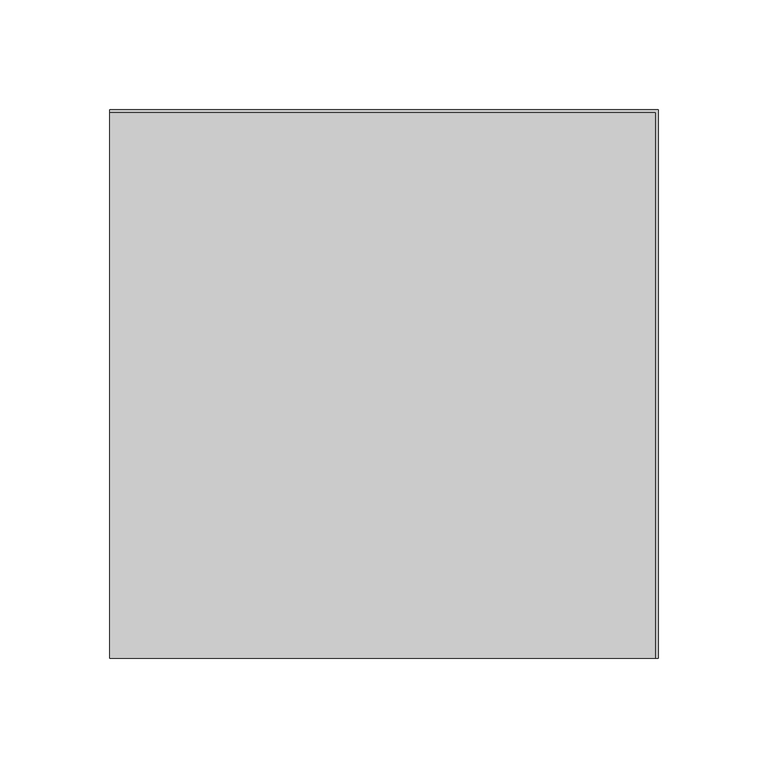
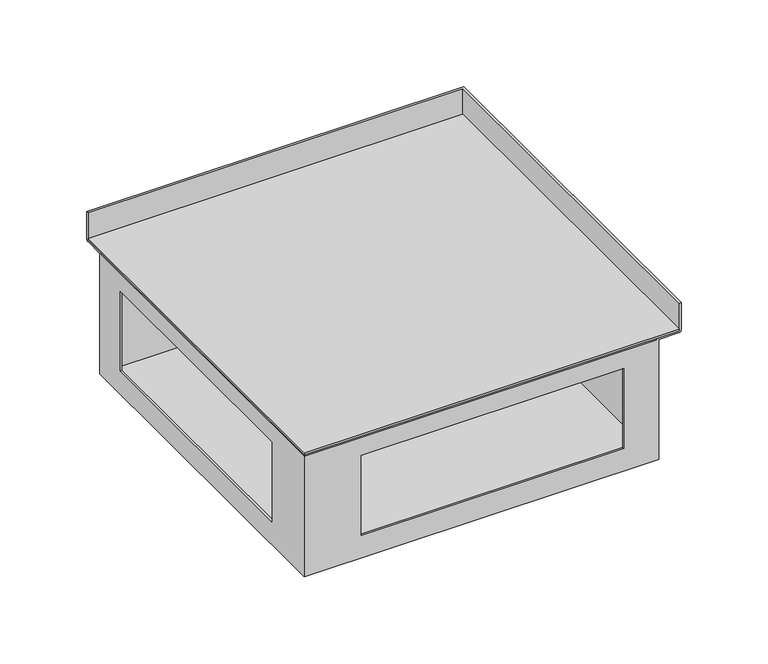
"""IFC4 building model written with IfcOpenShell, lengths in millimetres: proxy geometry, TECHNO_Угловой элемент_KVU : 250_105_90°."""

import ifcopenshell
import ifcopenshell.guid

model = None  # the IFC model being written
_history = None  # IfcOwnerHistory: only IFC2X3 demands one
_inside = {}  # id of a spatial element -> (the spatial element, [elements in it])
_under = {}  # id of a project, library or spatial element -> (it, [spatial elements below it])
_declared = {}  # id of a project -> (the project, [libraries it declares])
_typed = {}  # id of a type object -> (the type object, [elements of that type])
_made_of = {}  # id of a material, layer set ... -> (it, [elements and type objects made of it])


def new_model(schema):
    """Start an empty IFC model of exactly this schema.

    Asked for "IFC4X3", IfcOpenShell would pick the latest addendum, in which some entities
    have other attributes; the version numbers below select the first issue.
    IFC2X3 requires an IfcOwnerHistory on every rooted entity: one is made here for all.
    """
    global model, _history
    if schema == "IFC4X3":
        model = ifcopenshell.file(schema_version=(4, 3, 0, 0))
    else:
        model = ifcopenshell.file(schema=schema)
    _inside.clear()
    _under.clear()
    _declared.clear()
    _typed.clear()
    _made_of.clear()
    _history = None
    if model.schema == "IFC2X3":
        org = make("IfcOrganization", Name="unknown")
        user = make(
            "IfcPersonAndOrganization",
            ThePerson=make("IfcPerson", FamilyName="unknown"),
            TheOrganization=org,
        )
        app = make(
            "IfcApplication",
            ApplicationDeveloper=org,
            Version="unknown",
            ApplicationFullName="unknown",
            ApplicationIdentifier="unknown",
        )
        _history = make(
            "IfcOwnerHistory",
            OwningUser=user,
            OwningApplication=app,
            ChangeAction="ADDED",
            CreationDate=0,
        )
    return model


def make(cls, **values):
    """One entity of the class cls with the attributes given. An attribute that is None is left unset."""
    return model.create_entity(
        cls, **{name: value for name, value in values.items() if value is not None}
    )


def rooted(cls, **values):
    """An entity with a GlobalId (a new one), such as an element, a storey or a relation."""
    return make(cls, GlobalId=ifcopenshell.guid.new(), OwnerHistory=_history, **values)


def si_unit(unit_type, name, prefix=None):
    """IfcSIUnit, for example si_unit("LENGTHUNIT", "METRE", prefix="MILLI")."""
    return make("IfcSIUnit", UnitType=unit_type, Prefix=prefix, Name=name)


def assignment(units):
    """IfcUnitAssignment: the units of a project."""
    return None if units is None else make("IfcUnitAssignment", Units=units)


def point(xyz):
    """IfcCartesianPoint."""
    return None if xyz is None else make("IfcCartesianPoint", Coordinates=xyz)


def direction(xyz):
    """IfcDirection."""
    return None if xyz is None else make("IfcDirection", DirectionRatios=xyz)


def frame(location, z_axis=None, x_axis=None):
    """IfcAxis2Placement3D, a coordinate frame: its origin and axes. An axis left out is left unset."""
    return make(
        "IfcAxis2Placement3D",
        Location=point(location),
        Axis=direction(z_axis),
        RefDirection=direction(x_axis),
    )


def origin():
    """The frame at (0, 0, 0) with its axes left unset."""
    return frame((0.0, 0.0, 0.0))


def place(relative_to, where):
    """IfcLocalPlacement: puts the frame where relative to a parent placement (None: the world)."""
    return make(
        "IfcLocalPlacement", PlacementRelTo=relative_to, RelativePlacement=where
    )


def context(
    kind, dimensions, precision=None, world=None, true_north=None, identifier=None
):
    """IfcGeometricRepresentationContext, for example the 3D "Model" context."""
    return make(
        "IfcGeometricRepresentationContext",
        ContextIdentifier=identifier,
        ContextType=kind,
        CoordinateSpaceDimension=dimensions,
        Precision=precision,
        WorldCoordinateSystem=world,
        TrueNorth=true_north,
    )


def project(units=None, contexts=None):
    """IfcProject with its units and contexts."""
    return rooted(
        "IfcProject",
        Name="project",
        RepresentationContexts=contexts,
        UnitsInContext=assignment(units),
    )


def spatial(cls, under=None, at=None, **own):
    """A site, building, storey or space (cls), placed at a placement, below another one or the project."""
    s = rooted(cls, ObjectPlacement=at, **own)
    if under is not None:
        _under.setdefault(under.id(), (under, []))[1].append(s)
    return s


def polyline(points):
    """IfcPolyline through the points."""
    return make("IfcPolyline", Points=[point(p) for p in points])


def circle_curve(where, radius):
    """IfcCircle in the frame where."""
    return make("IfcCircle", Position=where, Radius=radius)


def ellipse_curve(where, semi_axis1, semi_axis2):
    """IfcEllipse in the frame where."""
    return make(
        "IfcEllipse", Position=where, SemiAxis1=semi_axis1, SemiAxis2=semi_axis2
    )


def outline(outer, holes=None, kind="AREA"):
    """IfcArbitraryClosedProfileDef: a profile drawn as a closed curve; with holes, ...WithVoids."""
    if holes is None:
        return make("IfcArbitraryClosedProfileDef", ProfileType=kind, OuterCurve=outer)
    return make(
        "IfcArbitraryProfileDefWithVoids",
        ProfileType=kind,
        OuterCurve=outer,
        InnerCurves=holes,
    )


def extrude(swept, where, along, depth):
    """IfcExtrudedAreaSolid: the profile swept, set in the frame where, extruded along a direction by depth."""
    return make(
        "IfcExtrudedAreaSolid",
        SweptArea=swept,
        Position=where,
        ExtrudedDirection=direction(along),
        Depth=depth,
    )


def shape(context_of_items, identifier, shape_type, items):
    """IfcShapeRepresentation: the items that make up one representation, for example the "Body"."""
    return make(
        "IfcShapeRepresentation",
        ContextOfItems=context_of_items,
        RepresentationIdentifier=identifier,
        RepresentationType=shape_type,
        Items=items,
    )


def source(mapping_origin, context_of_items, identifier, shape_type, items):
    """IfcRepresentationMap: a shape defined once, which mapped items show again and again."""
    return make(
        "IfcRepresentationMap",
        MappingOrigin=mapping_origin,
        MappedRepresentation=shape(context_of_items, identifier, shape_type, items),
    )


def transform(
    local_origin,
    x_axis=None,
    y_axis=None,
    z_axis=None,
    scale=None,
    scale2=None,
    scale3=None,
    uniform=True,
):
    """IfcCartesianTransformationOperator3D, or its non-uniform kind. x_axis, y_axis, z_axis: its Axis1, 2, 3."""
    if uniform:
        return make(
            "IfcCartesianTransformationOperator3D",
            Axis1=direction(x_axis),
            Axis2=direction(y_axis),
            LocalOrigin=point(local_origin),
            Scale=scale,
            Axis3=direction(z_axis),
        )
    return make(
        "IfcCartesianTransformationOperator3DnonUniform",
        Axis1=direction(x_axis),
        Axis2=direction(y_axis),
        LocalOrigin=point(local_origin),
        Scale=scale,
        Axis3=direction(z_axis),
        Scale2=scale2,
        Scale3=scale3,
    )


def mapped(mapping_source, mapping_target):
    """IfcMappedItem: shows the shape of a source again, moved by a transform."""
    return make(
        "IfcMappedItem", MappingSource=mapping_source, MappingTarget=mapping_target
    )


def made_of(thing, what):
    """Note that an element or type object is made of a material, layer set ...; save() writes the relation."""
    if what is not None:
        _made_of.setdefault(what.id(), (what, []))[1].append(thing)
    return thing


def element(
    cls,
    number,
    at=None,
    inside=None,
    cuts=None,
    type_object=None,
    material=None,
    context=None,
    identifier="Body",
    shape_type=None,
    held_by="IfcProductDefinitionShape",
    body=None,
    shapes=None,
    **own,
):
    """One element of the class cls, such as IfcWall. Its Tag is "e" and its number.

    at: its placement. inside: the storey or other place that contains it. cuts: it is an
    opening in that element (IfcRelVoidsElement). A single representation is given by context,
    identifier, shape_type and body (its items); several are given by shapes. held_by: the class
    of the entity that holds the representations. save() writes the other relations.
    """
    e = rooted(cls, Tag="e%d" % number, ObjectPlacement=at, **own)
    if body is not None:
        shapes = [shape(context, identifier, shape_type, body)]
    if shapes is not None:
        e.Representation = make(held_by, Representations=shapes)
    if inside is not None:
        _inside.setdefault(inside.id(), (inside, []))[1].append(e)
    if cuts is not None:
        rooted(
            "IfcRelVoidsElement", RelatingBuildingElement=cuts, RelatedOpeningElement=e
        )
    if type_object is not None:
        _typed.setdefault(type_object.id(), (type_object, []))[1].append(e)
    return made_of(e, material)


def aggregate(whole, parts):
    """IfcRelAggregates: a whole, such as a stair, and the parts it consists of."""
    return rooted("IfcRelAggregates", RelatingObject=whole, RelatedObjects=parts)


def save(model, path):
    """Write the relations noted so far, then the file.

    IfcRelAggregates (storeys below a building ...), IfcRelContainedInSpatialStructure (elements
    in a storey), IfcRelDefinesByType, IfcRelAssociatesMaterial and IfcRelDeclares: one each for
    every whole, place, type object, material and project.
    """
    for whole, parts in _under.values():
        aggregate(whole, parts)
    for where, things in _inside.values():
        rooted(
            "IfcRelContainedInSpatialStructure",
            RelatedElements=things,
            RelatingStructure=where,
        )
    for kind, things in _typed.values():
        rooted("IfcRelDefinesByType", RelatedObjects=things, RelatingType=kind)
    for what, things in _made_of.values():
        rooted("IfcRelAssociatesMaterial", RelatedObjects=things, RelatingMaterial=what)
    for by, libraries in _declared.values():
        rooted("IfcRelDeclares", RelatingContext=by, RelatedDefinitions=libraries)
    model.write(path)


def plane_surface(at):
    """IfcPlane: the flat surface through the origin of the frame at, square to its z axis."""
    return make("IfcPlane", Position=at)


def cylinder_surface(at, radius):
    """IfcCylindricalSurface: all points at the distance radius from the z axis of the frame at."""
    return make("IfcCylindricalSurface", Position=at, Radius=radius)


def advanced_brep(points, edges, surfaces, faces):
    """IfcAdvancedBrep: a solid bounded by faces that lie on surfaces and meet in shared edges.

    An edge is (start, end): straight between two places in points (the first is 0);
    or (start, end, curve); or (start, end, curve, False) where it runs against its curve.
    A face is (place in surfaces, loops), or (place, loops, False) where it looks against
    its surface's normal. A loop lists edges by number (the first is 1), with a minus sign
    where the edge is run from its end to its start. The first loop is the outer one.
    """
    corners = [point(p) for p in points]
    vertices = [make("IfcVertexPoint", VertexGeometry=c) for c in corners]
    made = []
    for start, end, *more in edges:
        made.append(
            make(
                "IfcEdgeCurve",
                EdgeStart=vertices[start],
                EdgeEnd=vertices[end],
                EdgeGeometry=more[0] if more else make("IfcPolyline", Points=[corners[start], corners[end]]),
                SameSense=more[1] if len(more) > 1 else True,
            )
        )
    hull = []
    for where, loops, *sense in faces:
        bounds = []
        for j, loop in enumerate(loops):
            ring = [make("IfcOrientedEdge", EdgeElement=made[abs(k) - 1], Orientation=k > 0) for k in loop]
            bounds.append(
                make(
                    "IfcFaceOuterBound" if j == 0 else "IfcFaceBound",
                    Bound=make("IfcEdgeLoop", EdgeList=ring),
                    Orientation=True,
                )
            )
        hull.append(make("IfcAdvancedFace", Bounds=bounds, FaceSurface=surfaces[where], SameSense=sense[0] if sense else True))
    return make("IfcAdvancedBrep", Outer=make("IfcClosedShell", CfsFaces=hull))


def mechanical_equipment_dacad1b7(model_context):
    return source(origin(), model_context, "Body", "SolidModel", [
        extrude(outline(polyline([(0.0, 123.8), (248.8, 123.8), (248.8, -125.0), (0.0, -125.0), (0.0, 123.8)])), frame((0.0, 0.0, -19.3), z_axis=(0.0, 0.0, 1.0), x_axis=(1.0, 0.0, 0.0)), (0.0, 0.0, 1.0), 1.2),
        advanced_brep(
        [(1.2, 109.0, -103.8), (1.2, -123.8, -103.8), (234.0, -123.8, -103.8), (234.0, 109.0, -103.8), (0.0, 110.2, -105.0), (235.2, 110.2, -105.0), (235.2, -125.0, -105.0), (0.0, -125.0, -105.0), (0.0, 110.2, -20.5), (0.0, -125.0, -20.5), (0.0, 109.0, -20.5), (0.0, 110.2, -19.3), (0.0, 123.8, -19.3), (0.0, 123.8, 0.0), (0.0, 125.0, 0.0), (0.0, 125.0, -19.3), (0.0, 123.8, -20.5), (0.0, -87.4, -33.0), (0.0, -87.4, -89.0), (0.0, 87.0, -89.0), (0.0, 87.0, -33.0), (235.2, -125.0, -20.5), (248.8, -125.0, -20.5), (250.0, -125.0, -19.3), (250.0, -125.0, 0.0), (248.8, -125.0, 0.0), (248.8, -125.0, -19.3), (235.2, -125.0, -19.3), (234.0, -125.0, -20.5), (37.6, -125.0, -89.0), (37.6, -125.0, -33.0), (212.0, -125.0, -33.0), (212.0, -125.0, -89.0), (235.2, 110.2, -20.5), (1.2, 110.2, -19.3), (1.2, -123.8, -19.3), (235.2, -123.8, -19.3), (248.8, 123.8, -19.3), (235.2, -109.0, -19.3), (16.0, -109.0, -19.3), (16.0, 110.2, -19.3), (235.2, 110.2, -19.3), (16.0, -109.0, -20.5), (16.0, 109.0, -20.5), (234.0, -109.0, -20.5), (234.0, -123.8, -20.5), (1.2, -123.8, -20.5), (1.2, 109.0, -20.5), (1.2, -87.4, -89.0), (1.2, -87.4, -33.0), (1.2, 87.0, -33.0), (1.2, 87.0, -89.0), (37.6, -123.8, -33.0), (37.6, -123.8, -89.0), (212.0, -123.8, -89.0), (212.0, -123.8, -33.0), (250.0, 125.0, -19.3), (250.0, 125.0, 0.0), (248.8, 123.8, 0.0), (248.8, 123.8, -20.5), (234.0, 109.0, -20.5)],
        [
            (0, 1),
            (1, 2),
            (2, 3),
            (3, 0),
            (4, 5),
            (5, 6),
            (6, 7),
            (7, 4),
            (8, 4),
            (7, 9),
            (9, 10),
            (10, 11, circle_curve(frame((0.0, 110.2, -20.5), z_axis=(-1.0, 0.0, 0.0), x_axis=(0.0, -1.0, 0.0)), 1.2)),
            (11, 12),
            (12, 13),
            (13, 14),
            (14, 15),
            (15, 16, circle_curve(frame((0.0, 123.8, -19.3), z_axis=(-1.0, 0.0, 0.0), x_axis=(0.0, -1.0, 0.0)), 1.2)),
            (16, 8),
            (17, 18),
            (18, 19),
            (19, 20),
            (20, 17),
            (6, 21),
            (21, 22),
            (22, 23, circle_curve(frame((248.8, -125.0, -19.3), z_axis=(0.0, -1.0, 0.0), x_axis=(-1.0, 0.0, 0.0)), 1.2)),
            (23, 24),
            (24, 25),
            (25, 26),
            (26, 27),
            (27, 28, circle_curve(frame((235.2, -125.0, -20.5), z_axis=(0.0, -1.0, 0.0), x_axis=(-1.0, 0.0, 0.0)), 1.2)),
            (28, 9),
            (29, 30),
            (30, 31),
            (31, 32),
            (32, 29),
            (8, 33),
            (33, 5),
            (33, 21),
            (34, 35),
            (35, 36),
            (36, 27),
            (26, 37),
            (37, 12),
            (11, 34),
            (38, 39),
            (39, 40),
            (40, 41),
            (41, 38),
            (39, 42),
            (42, 43),
            (43, 40, circle_curve(frame((16.0, 110.2, -20.5), z_axis=(-1.0, 0.0, 0.0), x_axis=(0.0, -1.0, 0.0)), 1.2)),
            (38, 44, circle_curve(frame((235.2, -109.0, -20.5), z_axis=(0.0, -1.0, 0.0), x_axis=(-1.0, 0.0, 0.0)), 1.2)),
            (44, 42),
            (44, 45),
            (45, 46),
            (46, 47),
            (47, 43),
            (46, 1),
            (0, 47),
            (48, 49),
            (49, 50),
            (50, 51),
            (51, 48),
            (45, 2),
            (52, 53),
            (53, 54),
            (54, 55),
            (55, 52),
            (34, 10, ellipse_curve(frame((1.2, 110.2, -20.5), z_axis=(0.7071067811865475, -0.7071067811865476, 0.0), x_axis=(0.7071067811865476, 0.7071067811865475, 0.0)), 1.6970563, 1.2)),
            (9, 35, ellipse_curve(frame((1.2, -123.8, -20.5), z_axis=(-0.7071067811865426, 0.7071067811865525, 0.0), x_axis=(0.7071067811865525, 0.7071067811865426, 0.0)), 1.6970563, 1.2)),
            (28, 36, ellipse_curve(frame((235.2, -123.8, -20.5), z_axis=(-0.707106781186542, 0.7071067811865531, 0.0), x_axis=(-0.7071067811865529, -0.707106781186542, 0.0)), 1.6970563, 1.2)),
            (23, 56),
            (56, 57),
            (57, 24),
            (57, 14),
            (13, 58),
            (58, 25),
            (58, 37),
            (16, 59),
            (59, 22),
            (59, 56, ellipse_curve(frame((248.8, 123.8, -19.3), z_axis=(0.7071067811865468, -0.7071067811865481, 0.0), x_axis=(-0.7071067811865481, -0.7071067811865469, 0.0)), 1.6970563, 1.2)),
            (56, 15),
            (41, 60, ellipse_curve(frame((235.2, 110.2, -20.5), z_axis=(0.7071067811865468, -0.7071067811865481, 0.0), x_axis=(-0.7071067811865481, -0.7071067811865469, 0.0)), 1.6970563, 1.2)),
            (60, 44),
            (60, 3),
            (43, 60),
            (48, 18),
            (17, 49),
            (51, 19),
            (50, 20),
            (52, 30),
            (29, 53),
            (55, 31),
            (54, 32),
        ],
        [
            plane_surface(frame((0.0, 109.0, -103.8), z_axis=(0.0, 0.0, 1.0), x_axis=(0.0, -1.0, 0.0))),
            plane_surface(frame((0.0, 109.0, -105.0), z_axis=(0.0, 0.0, -1.0), x_axis=(0.0, 1.0, 0.0))),
            plane_surface(frame((0.0, 109.0, -103.8), z_axis=(-1.0, 0.0, 0.0), x_axis=(0.0, 0.0, -1.0))),
            plane_surface(frame((0.0, -125.0, -103.8), z_axis=(0.0, -1.0, 0.0), x_axis=(0.0, 0.0, -1.0))),
            plane_surface(frame((0.0, 110.2, -105.0), z_axis=(0.0, 1.0, 0.0), x_axis=(0.0, 0.0, -1.0))),
            plane_surface(frame((235.2, -125.0, -105.0), z_axis=(1.0, 0.0, 0.0), x_axis=(0.0, 0.0, -1.0))),
            plane_surface(frame((1.2, 110.2, -19.3), z_axis=(0.0, 0.0, 1.0), x_axis=(0.0, -1.0, 0.0))),
            plane_surface(frame((16.0, 110.2, -19.3), z_axis=(1.0, 0.0, 0.0), x_axis=(0.0, -1.0, 0.0))),
            plane_surface(frame((16.0, -109.0, -19.3), z_axis=(0.0, 1.0, 0.0), x_axis=(1.0, 0.0, 0.0))),
            plane_surface(frame((16.0, 110.2, -20.5), z_axis=(0.0, 0.0, -1.0), x_axis=(0.0, -1.0, 0.0))),
            plane_surface(frame((1.2, 110.2, -20.5), z_axis=(1.0, 0.0, 0.0), x_axis=(0.0, -1.0, 0.0))),
            plane_surface(frame((1.2, -123.8, -20.5), z_axis=(0.0, 1.0, 0.0), x_axis=(1.0, 0.0, 0.0))),
            cylinder_surface(frame((1.2, 110.2, -20.5), z_axis=(0.0, 1.0, 0.0), x_axis=(-1.0, 0.0, 0.0)), 1.2),
            cylinder_surface(frame((0.0, -123.8, -20.5), z_axis=(-1.0, 0.0, 0.0), x_axis=(0.0, -1.0, 0.0)), 1.2),
            plane_surface(frame((250.0, -125.0, -19.3), z_axis=(1.0, 0.0, 0.0), x_axis=(0.0, 1.0, 0.0))),
            plane_surface(frame((250.0, -125.0, 0.0), z_axis=(0.0, 0.0, 1.0), x_axis=(0.0, 1.0, 0.0))),
            plane_surface(frame((248.8, -125.0, 0.0), z_axis=(-1.0, 0.0, 0.0), x_axis=(0.0, 1.0, 0.0))),
            plane_surface(frame((235.2, -125.0, -20.5), z_axis=(0.0, 0.0, -1.0), x_axis=(0.0, 1.0, 0.0))),
            cylinder_surface(frame((248.8, -125.0, -19.3), z_axis=(0.0, -1.0, 0.0), x_axis=(-1.0, 0.0, 0.0)), 1.2),
            plane_surface(frame((250.0, 125.0, -19.3), z_axis=(0.0, 1.0, 0.0), x_axis=(-1.0, 0.0, 0.0))),
            plane_surface(frame((248.8, 123.8, 0.0), z_axis=(0.0, -1.0, 0.0), x_axis=(-1.0, 0.0, 0.0))),
            cylinder_surface(frame((125.0, 123.8, -19.3), z_axis=(1.0, 0.0, 0.0), x_axis=(0.0, -1.0, 0.0)), 1.2),
            cylinder_surface(frame((235.2, -125.0, -20.5), z_axis=(0.0, -1.0, 0.0), x_axis=(-1.0, 0.0, 0.0)), 1.2),
            plane_surface(frame((234.0, -125.0, -20.5), z_axis=(-1.0, 0.0, 0.0), x_axis=(0.0, 1.0, 0.0))),
            cylinder_surface(frame((125.0, 110.2, -20.5), z_axis=(1.0, 0.0, 0.0), x_axis=(0.0, -1.0, 0.0)), 1.2),
            plane_surface(frame((234.0, 109.0, -20.5), z_axis=(0.0, -1.0, 0.0), x_axis=(-1.0, 0.0, 0.0))),
            plane_surface(frame((1.2, -87.4, -33.0), z_axis=(0.0, 1.0, 0.0), x_axis=(-1.0, 0.0, 0.0))),
            plane_surface(frame((1.2, -87.4, -89.0), z_axis=(0.0, 0.0, 1.0), x_axis=(-1.0, 0.0, 0.0))),
            plane_surface(frame((1.2, 87.0, -89.0), z_axis=(0.0, -1.0, 0.0), x_axis=(-1.0, 0.0, 0.0))),
            plane_surface(frame((1.2, 87.0, -33.0), z_axis=(0.0, 0.0, -1.0), x_axis=(-1.0, 0.0, 0.0))),
            plane_surface(frame((37.6, -123.8, -89.0), z_axis=(1.0, 0.0, 0.0), x_axis=(0.0, -1.0, 0.0))),
            plane_surface(frame((37.6, -123.8, -33.0), z_axis=(0.0, 0.0, -1.0), x_axis=(0.0, -1.0, 0.0))),
            plane_surface(frame((212.0, -123.8, -33.0), z_axis=(-1.0, 0.0, 0.0), x_axis=(0.0, -1.0, 0.0))),
            plane_surface(frame((212.0, -123.8, -89.0), z_axis=(0.0, 0.0, 1.0), x_axis=(0.0, -1.0, 0.0))),
        ],
        [
            (0, [[1, 2, 3, 4]]),
            (1, [[5, 6, 7, 8]]),
            (2, [[9, -8, 10, 11, 12, 13, 14, 15, 16, 17, 18], [19, 20, 21, 22]]),
            (3, [[23, 24, 25, 26, 27, 28, 29, 30, 31, -10, -7], [32, 33, 34, 35]]),
            (4, [[-9, 36, 37, -5]]),
            (5, [[-23, -6, -37, 38]]),
            (6, [[39, 40, 41, -29, 42, 43, -13, 44], [45, 46, 47, 48]]),
            (7, [[-46, 49, 50, 51]]),
            (8, [[-45, 52, 53, -49]]),
            (9, [[-50, -53, 54, 55, 56, 57]]),
            (10, [[58, -1, 59, -56], [60, 61, 62, 63]]),
            (11, [[-58, -55, 64, -2], [65, 66, 67, 68]]),
            (12, [[-39, 69, -11, 70]]),
            (13, [[-40, -70, -31, 71]]),
            (14, [[-26, 72, 73, 74]]),
            (15, [[-27, -74, 75, -15, 76, 77]]),
            (16, [[-28, -77, 78, -42]]),
            (17, [[-24, -38, -36, -18, 79, 80]]),
            (18, [[-25, -80, 81, -72]]),
            (19, [[-73, 82, -16, -75]]),
            (20, [[-76, -14, -43, -78]]),
            (21, [[-79, -17, -82, -81]]),
            (22, [[-30, -41, -71]]),
            (22, [[83, 84, -52, -48]]),
            (23, [[85, -3, -64, -54, -84]]),
            (24, [[-12, -69, -44]]),
            (24, [[-83, -47, -51, 86]]),
            (25, [[-85, -86, -57, -59, -4]]),
            (26, [[87, -19, 88, -60]]),
            (27, [[-87, -63, 89, -20]]),
            (28, [[-89, -62, 90, -21]]),
            (29, [[-88, -22, -90, -61]]),
            (30, [[91, -32, 92, -65]]),
            (31, [[-91, -68, 93, -33]]),
            (32, [[-93, -67, 94, -34]]),
            (33, [[-92, -35, -94, -66]]),
        ],
    ),
    ])


if __name__ == "__main__":
    model = new_model("IFC4")
    model_context = context("Model", 3, world=origin())
    ifc_project = project(units=[si_unit("LENGTHUNIT", "METRE", prefix="MILLI")], contexts=[model_context])
    site = spatial("IfcSite", under=ifc_project)
    building = spatial("IfcBuilding", under=site)
    placement = place(None, origin())
    mechanical_equipment_shape = mechanical_equipment_dacad1b7(model_context)
    element("IfcBuildingElementProxy", 1, Name="TECHNO_Угловой элемент_KVU : 250_105_90°", ObjectType="TECHNO_Угловой элемент_KVU : 250_105_90°", at=placement, inside=building, context=model_context, shape_type="MappedRepresentation", body=[
        mapped(mechanical_equipment_shape, transform((0.0, 0.0, 0.0), x_axis=(1.0, 0.0, 0.0), y_axis=(0.0, 1.0, 0.0), z_axis=(0.0, 0.0, 1.0))),
    ])
    save(model, "model.ifc")
